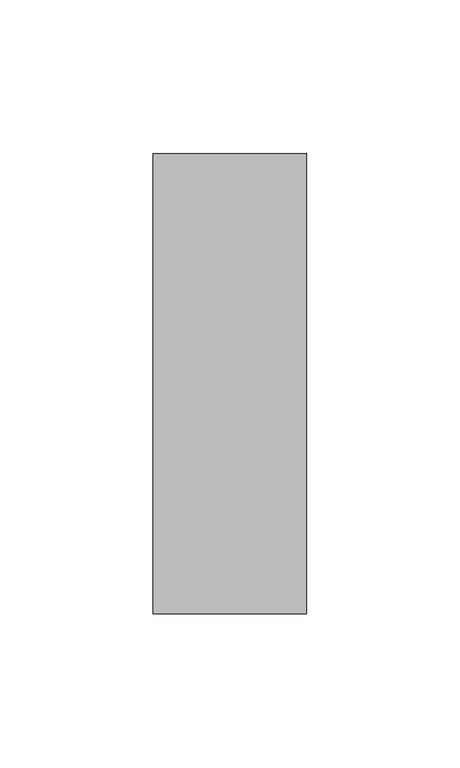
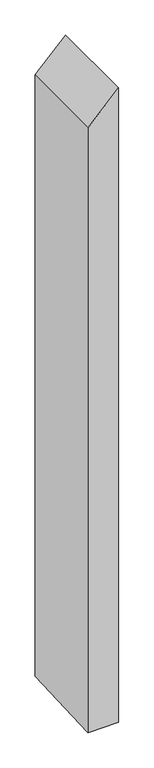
"""IFC4 building model written with IfcOpenShell, lengths in millimetres: member geometry, Прямоугольный импост : 50 x 150 мм."""

from ifc_helpers import new_model, si_unit, origin, place, context, project, spatial, faceted_brep, source, transform, mapped, element, save


def member_a5d7c792(model_context):
    return source(origin(), model_context, "Body", "Brep", [
        faceted_brep([(-50.0, 75.0, -51.0538395), (0.0, 75.0, 0.0149767), (0.0, 75.0, -1091.0577613), (-50.0, 75.0, -1091.2954058), (-50.0, -75.0, -51.083793), (-50.0, -75.0, -1097.8085038), (0.0, -75.0, -0.0149767), (0.0, -75.0, -1097.5708593)], [[[0, 1, 2, 3]], [[4, 0, 3, 5]], [[6, 4, 5, 7]], [[1, 6, 7, 2]], [[1, 0, 4, 6]], [[2, 7, 5, 3]]]),
    ])


if __name__ == "__main__":
    model = new_model("IFC4")
    model_context = context("Model", 3, world=origin())
    ifc_project = project(units=[si_unit("LENGTHUNIT", "METRE", prefix="MILLI")], contexts=[model_context])
    site = spatial("IfcSite", under=ifc_project)
    building = spatial("IfcBuilding", under=site)
    placement = place(None, origin())
    member_shape = member_a5d7c792(model_context)
    element("IfcMember", 1, ObjectType="Прямоугольный импост : 50 x 150 мм", at=placement, inside=building, context=model_context, shape_type="MappedRepresentation", body=[
        mapped(member_shape, transform((0.0, 0.0, 0.0), x_axis=(1.0, 0.0, 0.0), y_axis=(0.0, 1.0, 0.0), z_axis=(0.0, 0.0, 1.0))),
    ])
    save(model, "model.ifc")
